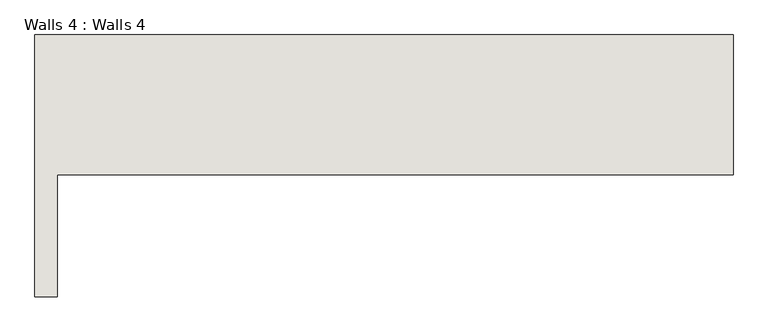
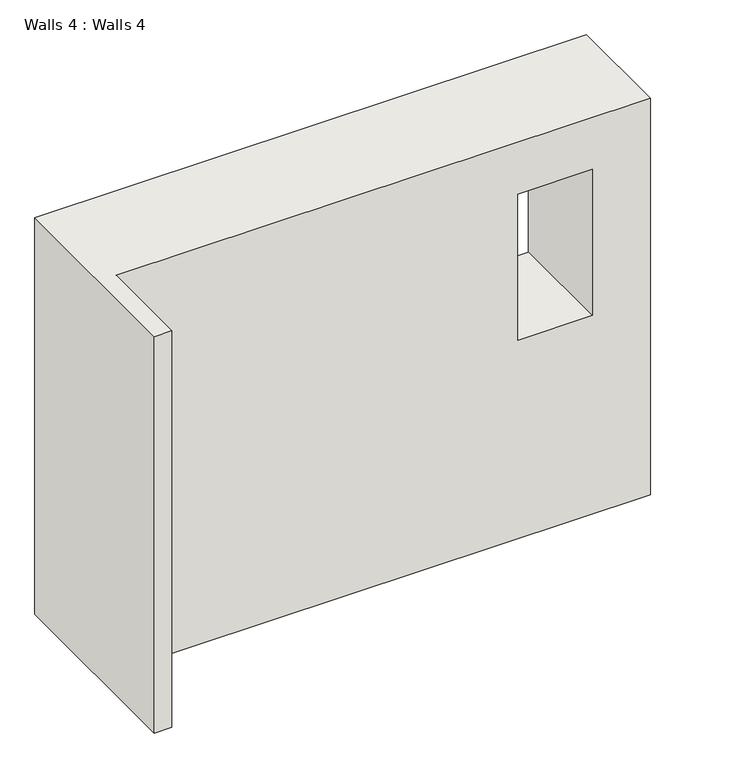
"""IFC4 building model written with IfcOpenShell, lengths in millimetres: wall geometry, Walls 4 : Walls 4."""

from ifc_helpers import new_model, si_unit, origin, place, context, project, spatial, faceted_brep, source, transform, mapped, element, save


def walls_4_walls_4_3fb20297(model_context):
    return source(origin(), model_context, "Body", "Brep", [
        faceted_brep([(-11168.5171482, -2431.3848439, 12000.0), (-3518.5171482, -2431.3848439, 12000.0), (-3518.5171482, -849.4449025, 12000.0), (-11418.5171482, -849.4449025, 12000.0), (-11418.5171482, -3813.5680576, 12000.0), (-11168.5171482, -3813.5680576, 12000.0), (-11168.5171482, -2431.3848439, 6000.0), (-11168.5171482, -3813.5680576, 6000.0), (-11418.5171482, -3813.5680576, 6000.0), (-11418.5171482, -849.4449025, 6000.0), (-3518.5171482, -849.4449025, 6000.0), (-3518.5171482, -2431.3848439, 6000.0), (-4350.3055449, -2431.3848439, 11216.2), (-4350.3055449, -2431.3848439, 9006.4), (-5417.1055449, -2431.3848439, 9006.4), (-5417.1055449, -2431.3848439, 11216.2), (-4350.3055449, -849.4449025, 9006.4), (-4350.3055449, -849.4449025, 11216.2), (-5417.1055449, -849.4449025, 11216.2), (-5417.1055449, -849.4449025, 9006.4)], [[[0, 1, 2, 3, 4, 5]], [[6, 7, 8, 9, 10, 11]], [[1, 0, 6, 11], [12, 13, 14, 15]], [[2, 1, 11, 10]], [[3, 2, 10, 9], [16, 17, 18, 19]], [[4, 3, 9, 8]], [[5, 4, 8, 7]], [[0, 5, 7, 6]], [[16, 13, 12, 17]], [[17, 12, 15, 18]], [[18, 15, 14, 19]], [[13, 16, 19, 14]]]),
    ])


if __name__ == "__main__":
    model = new_model("IFC4")
    model_context = context("Model", 3, world=origin())
    ifc_project = project(units=[si_unit("LENGTHUNIT", "METRE", prefix="MILLI")], contexts=[model_context])
    site = spatial("IfcSite", under=ifc_project)
    building = spatial("IfcBuilding", under=site)
    placement = place(None, origin())
    walls_4_walls_4_shape = walls_4_walls_4_3fb20297(model_context)
    element("IfcWall", 1, ObjectType="Walls 4 : Walls 4", at=placement, inside=building, context=model_context, shape_type="MappedRepresentation", body=[
        mapped(walls_4_walls_4_shape, transform((0.0, 0.0, 0.0), x_axis=(1.0, 0.0, 0.0), y_axis=(0.0, 1.0, 0.0), z_axis=(0.0, 0.0, 1.0))),
    ])
    save(model, "model.ifc")
